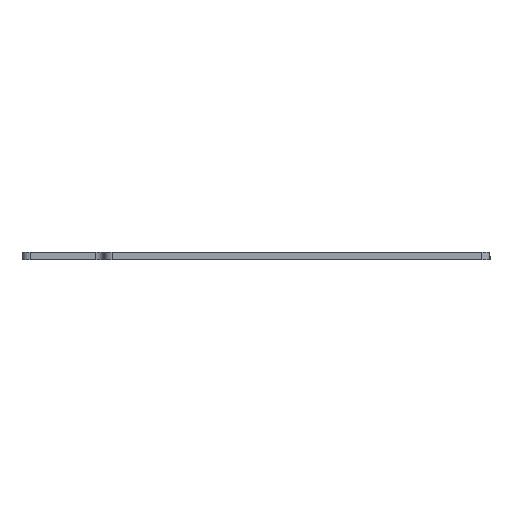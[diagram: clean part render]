
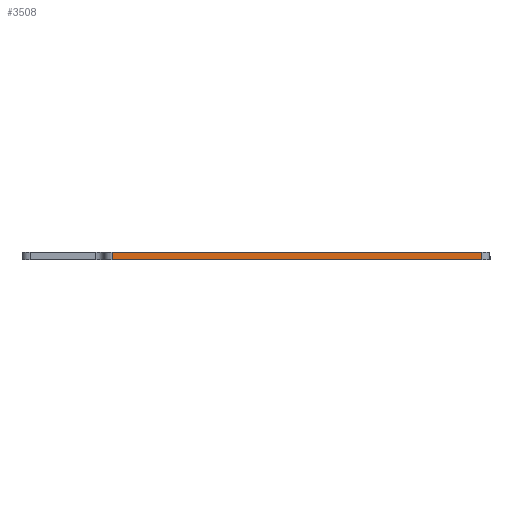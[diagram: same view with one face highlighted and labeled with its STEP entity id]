
A CAD part, left-side view. The second image highlights one B-rep face of the part: STEP entity #3508.
In plain terms, the highlighted planar face has unit normal (-1, 0, 0).
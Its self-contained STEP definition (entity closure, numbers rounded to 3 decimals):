
#143=PLANE('',#3864);
#314=FACE_OUTER_BOUND('',#486,.T.);
#486=EDGE_LOOP('',(#2903,#2904,#2905,#2906));
#868=LINE('',#5904,#1206);
#869=LINE('',#5907,#1207);
#870=LINE('',#5909,#1208);
#871=LINE('',#5910,#1209);
#1206=VECTOR('',#4878,10.);
#1207=VECTOR('',#4881,10.);
#1208=VECTOR('',#4882,10.);
#1209=VECTOR('',#4883,10.);
#1719=VERTEX_POINT('',#5900);
#1720=VERTEX_POINT('',#5902);
#1721=VERTEX_POINT('',#5906);
#1722=VERTEX_POINT('',#5908);
#2226=EDGE_CURVE('',#1719,#1720,#868,.T.);
#2227=EDGE_CURVE('',#1721,#1719,#869,.T.);
#2228=EDGE_CURVE('',#1722,#1720,#870,.T.);
#2229=EDGE_CURVE('',#1721,#1722,#871,.T.);
#2903=ORIENTED_EDGE('',*,*,#2227,.T.);
#2904=ORIENTED_EDGE('',*,*,#2226,.T.);
#2905=ORIENTED_EDGE('',*,*,#2228,.F.);
#2906=ORIENTED_EDGE('',*,*,#2229,.F.);
#3508=ADVANCED_FACE('',(#314),#143,.T.);
#3864=AXIS2_PLACEMENT_3D('',#5905,#4879,#4880);
#4878=DIRECTION('',(0.,0.,1.));
#4879=DIRECTION('center_axis',(-1.,0.,0.));
#4880=DIRECTION('ref_axis',(0.,-1.,0.));
#4881=DIRECTION('',(0.,-1.,0.));
#4882=DIRECTION('',(0.,-1.,0.));
#4883=DIRECTION('',(0.,0.,1.));
#5900=CARTESIAN_POINT('',(0.,5.,0.));
#5902=CARTESIAN_POINT('',(0.,5.,4.763));
#5904=CARTESIAN_POINT('',(0.,5.,0.));
#5905=CARTESIAN_POINT('Origin',(0.,230.,0.));
#5906=CARTESIAN_POINT('',(0.,230.,0.));
#5907=CARTESIAN_POINT('',(0.,230.,0.));
#5908=CARTESIAN_POINT('',(0.,230.,4.763));
#5909=CARTESIAN_POINT('',(0.,230.,4.763));
#5910=CARTESIAN_POINT('',(0.,230.,0.));
